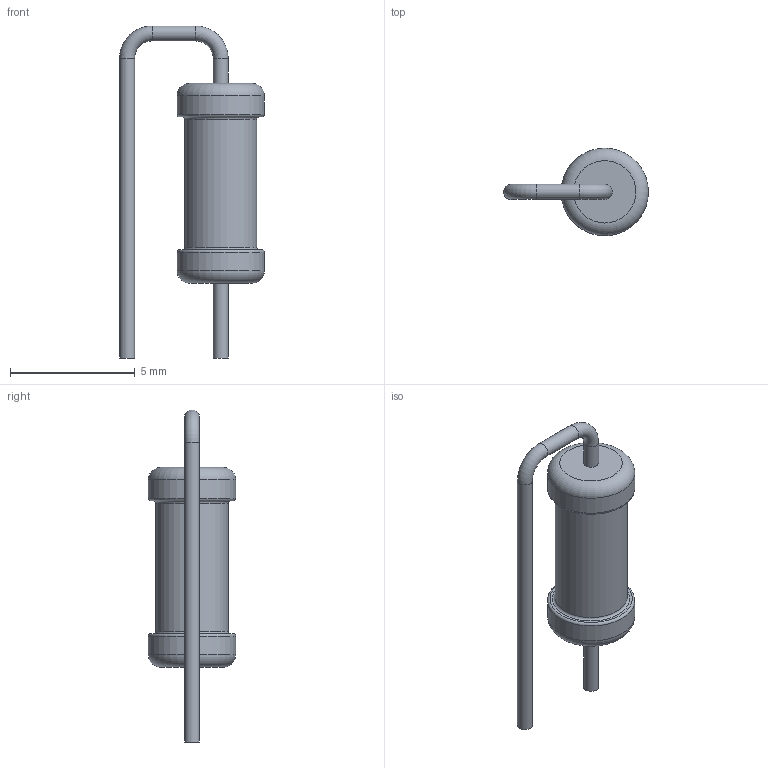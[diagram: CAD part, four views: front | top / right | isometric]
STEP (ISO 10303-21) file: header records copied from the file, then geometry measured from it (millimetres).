
FILE_DESCRIPTION(('STEP AP203'), '1');
FILE_NAME('栖闉罻', '', ('UNSPECIFIED'), ('UNSPECIFIED'), 'ASCON STEP Converter 1.6', 'ASCON Math Kernel', '');
FILE_SCHEMA(('CONFIG_CONTROL_DESIGN'));
Length unit declared in the file: millimetre
Assembly tree (1 placements, depth 2):
  (unnamed)
    (unnamed)
Bounding box: 5.8 x 3.5 x 13.3 mm (x, y, z)
Volume: 65.5 mm3; surface area: 135.9 mm2
Topology: 1 solids, 1 shells, 21 faces, 35 edges, 20 vertices
Faces by surface type: torus 8, cylinder 7, plane 6
Full cylindrical faces by diameter (mm): 0.6 x4, 2.893 x1, 3.5 x2
Entity records: 676 total; most frequent: DIRECTION 86, CARTESIAN_POINT 63, AXIS2_PLACEMENT_3D 43, EDGE_LOOP 40, ORIENTED_EDGE 40, FACE_OUTER_BOUND 30, COLOUR_RGB 22, FILL_AREA_STYLE_COLOUR 22
